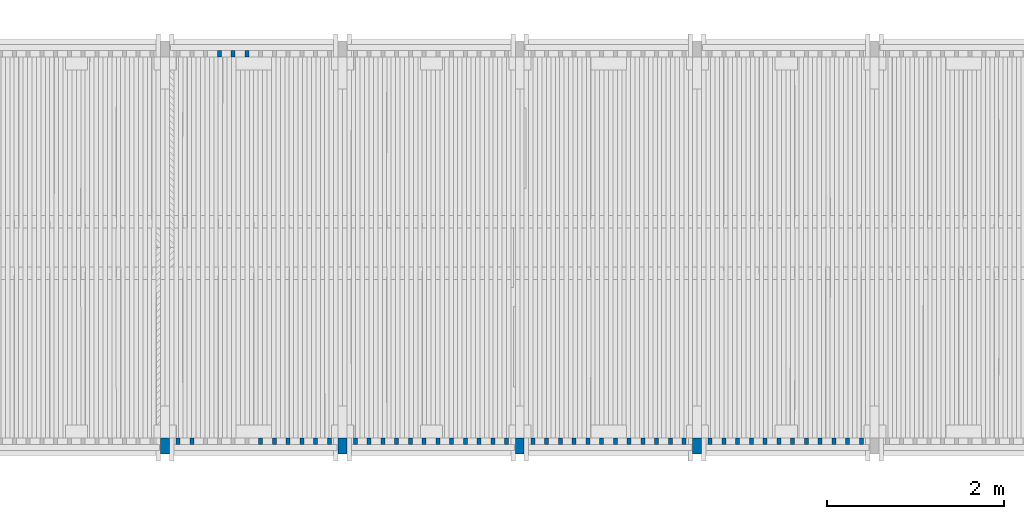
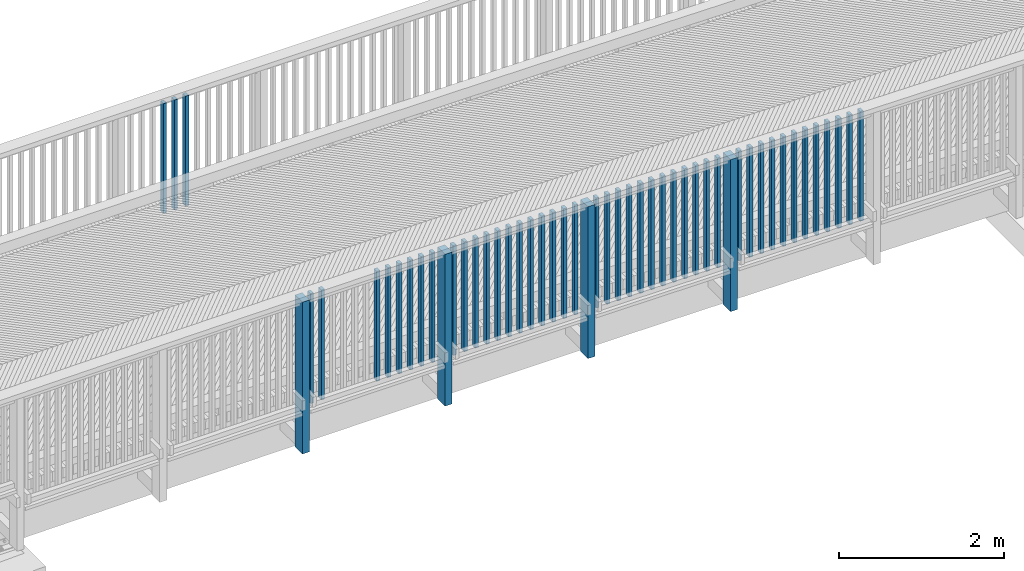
# One storey, part 8 of 52: 51 columns.
"""IFC2X3 building model written with IfcOpenShell, lengths in millimetres."""

from ifc_helpers import new_model, si_unit, frame, origin_with_axes, place, context, subcontext, project, spatial, faceted_brep, material, type_object, element, save


model = new_model("IFC2X3")

# Units and contexts
model_context = context("Model", 3, precision=1e-05, world=origin_with_axes())
body_context = subcontext(model_context, "Body", "Model", "MODEL_VIEW")
ifc_project = project(units=[si_unit("LENGTHUNIT", "METRE", prefix="MILLI"), si_unit("AREAUNIT", "SQUARE_METRE"), si_unit("VOLUMEUNIT", "CUBIC_METRE"), si_unit("MASSUNIT", "GRAM", prefix="KILO"), si_unit("TIMEUNIT", "SECOND"), si_unit("PLANEANGLEUNIT", "RADIAN"), si_unit("SOLIDANGLEUNIT", "STERADIAN"), si_unit("THERMODYNAMICTEMPERATUREUNIT", "DEGREE_CELSIUS"), si_unit("LUMINOUSINTENSITYUNIT", "LUMEN")], contexts=[model_context])

# Site, building, storey
site_placement = place(None, origin_with_axes())
site = spatial("IfcSite", under=ifc_project, at=site_placement, Name="Undefined", CompositionType="ELEMENT")
building_placement = place(site_placement, origin_with_axes())
building = spatial("IfcBuilding", under=site, at=building_placement, Name="Undefined", CompositionType="ELEMENT")
storey_placement = place(building_placement, origin_with_axes())
storey = spatial("IfcBuildingStorey", under=building, at=storey_placement, Name="Undefined", CompositionType="ELEMENT", Elevation=0.0)

# Columns
ifc_material = material(Name="TIMBER/Timber_Undefined")
column_type_1 = type_object("IfcColumnType", Name="180*100", PredefinedType="NOTDEFINED")
for number, where, z_axis, x_axis in (
    (1, (10000.0000678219, 125.01209190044, 2309.97693042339), (0.0, 1.0, 0.0), (0.0, 0.0, 1.0)),
    (2, (8000.00006782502, 125.01209190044, 2313.29124390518), (0.0, 1.0, 0.0), (0.0, 0.0, 1.0)),
    (3, (6000.00006782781, 125.01209190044, 2309.97693031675), (0.0, 1.0, 0.0), (0.0, 0.0, 1.0)),
    (4, (4000.00006783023, 125.01209190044, 2300.03388043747), (0.0, 1.0, 0.0), (0.0, 0.0, 1.0)),
):
    element("IfcColumn", number, at=place(storey_placement, frame(where, z_axis=z_axis, x_axis=x_axis)), inside=storey, type_object=column_type_1, material=ifc_material, Name="KAIDEPYLVÄS", ObjectType="180*100", context=body_context, shape_type="Brep", body=[
        faceted_brep([(0.0, 50.0, -90.0), (0.0, 50.0, 90.0), (2250.0, 50.0, 90.0), (2250.0, 50.0, -90.0), (0.0, -50.0, 90.0), (2250.0, -50.0, 90.0), (0.0, -50.0, -90.0), (2250.0, -50.0, -90.0)], [[[0, 1, 2, 3]], [[1, 4, 5, 2]], [[4, 6, 7, 5]], [[6, 0, 3, 7]], [[5, 7, 3, 2]], [[6, 4, 1, 0]]]),
    ])
column_type_2 = type_object("IfcColumnType", Name="70*45", PredefinedType="NOTDEFINED")
column_1_placement = place(storey_placement, frame((4922.50000075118, 4549.98790809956, 3106.97000000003), z_axis=(0.0, 1.0, 0.0), x_axis=(0.0, 0.0, 1.0)))
element("IfcColumn", 5, at=column_1_placement, inside=storey, type_object=column_type_2, material=ifc_material, Name="BEAM", ObjectType="70*45", context=body_context, shape_type="Brep", body=[
    faceted_brep([(-184.963379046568, 22.5, -35.0), (-184.963379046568, 22.5, 35.0), (1445.03757946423, 22.5, 35.0), (1445.03757946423, 22.5, -35.0), (-185.198872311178, -22.5, 35.0), (1444.80208619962, -22.5, 35.0), (-185.198872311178, -22.5, -35.0), (1444.80208619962, -22.5, -35.0)], [[[0, 1, 2, 3]], [[1, 4, 5, 2]], [[4, 6, 7, 5]], [[6, 0, 3, 7]], [[5, 7, 3, 2]], [[6, 4, 1, 0]]]),
])
column_2_placement = place(storey_placement, frame((4767.50000075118, 4549.98790809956, 3106.97000000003), z_axis=(0.0, 1.0, 0.0), x_axis=(0.0, 0.0, 1.0)))
element("IfcColumn", 6, at=column_2_placement, inside=storey, type_object=column_type_2, material=ifc_material, Name="BEAM", ObjectType="70*45", context=body_context, shape_type="Brep", body=[
    faceted_brep([(-185.774522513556, 22.5, -35.0), (-185.774522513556, 22.5, 35.0), (1444.22643599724, 22.5, 35.0), (1444.22643599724, 22.5, -35.0), (-186.010015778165, -22.5, 35.0), (1443.99094273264, -22.5, 35.0), (-186.010015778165, -22.5, -35.0), (1443.99094273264, -22.5, -35.0)], [[[0, 1, 2, 3]], [[1, 4, 5, 2]], [[4, 6, 7, 5]], [[6, 0, 3, 7]], [[5, 7, 3, 2]], [[6, 4, 1, 0]]]),
])
column_3_placement = place(storey_placement, frame((4612.50000075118, 4549.98790809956, 3106.97000000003), z_axis=(0.0, 1.0, 0.0), x_axis=(0.0, 0.0, 1.0)))
element("IfcColumn", 7, at=column_3_placement, inside=storey, type_object=column_type_2, material=ifc_material, Name="BEAM", ObjectType="70*45", context=body_context, shape_type="Brep", body=[
    faceted_brep([(-186.585665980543, 22.5, -35.0), (-186.585665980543, 22.5, 35.0), (1443.41529253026, 22.5, 35.0), (1443.41529253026, 22.5, -35.0), (-186.821159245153, -22.5, 35.0), (1443.17979926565, -22.5, 35.0), (-186.821159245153, -22.5, -35.0), (1443.17979926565, -22.5, -35.0)], [[[0, 1, 2, 3]], [[1, 4, 5, 2]], [[4, 6, 7, 5]], [[6, 0, 3, 7]], [[5, 7, 3, 2]], [[6, 4, 1, 0]]]),
])
column_4_placement = place(storey_placement, frame((11852.5000007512, 180.01209190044, 3109.68000000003), z_axis=(0.0, -1.0, 0.0), x_axis=(0.0, 0.0, 1.0)))
element("IfcColumn", 8, at=column_4_placement, inside=storey, type_object=column_type_2, material=ifc_material, Name="BEAM", ObjectType="70*45", context=body_context, shape_type="Brep", body=[
    faceted_brep([(-189.019096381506, 22.5, -35.0), (-189.019096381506, 22.5, 35.0), (1440.98186212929, 22.5, 35.0), (1440.98186212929, 22.5, -35.0), (-189.254589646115, -22.5, 35.0), (1440.74636886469, -22.5, 35.0), (-189.254589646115, -22.5, -35.0), (1440.74636886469, -22.5, -35.0)], [[[0, 1, 2, 3]], [[1, 4, 5, 2]], [[4, 6, 7, 5]], [[6, 0, 3, 7]], [[5, 7, 3, 2]], [[6, 4, 1, 0]]]),
])
column_5_placement = place(storey_placement, frame((11697.5000007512, 180.01209190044, 3109.68000000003), z_axis=(0.0, -1.0, 0.0), x_axis=(0.0, 0.0, 1.0)))
element("IfcColumn", 9, at=column_5_placement, inside=storey, type_object=column_type_2, material=ifc_material, Name="BEAM", ObjectType="70*45", context=body_context, shape_type="Brep", body=[
    faceted_brep([(-188.207952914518, 22.5, -35.0), (-188.207952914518, 22.5, 35.0), (1441.79300559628, 22.5, 35.0), (1441.79300559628, 22.5, -35.0), (-188.443446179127, -22.5, 35.0), (1441.55751233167, -22.5, 35.0), (-188.443446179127, -22.5, -35.0), (1441.55751233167, -22.5, -35.0)], [[[0, 1, 2, 3]], [[1, 4, 5, 2]], [[4, 6, 7, 5]], [[6, 0, 3, 7]], [[5, 7, 3, 2]], [[6, 4, 1, 0]]]),
])
column_6_placement = place(storey_placement, frame((11542.5000007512, 180.01209190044, 3109.68000000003), z_axis=(0.0, -1.0, 0.0), x_axis=(0.0, 0.0, 1.0)))
element("IfcColumn", 10, at=column_6_placement, inside=storey, type_object=column_type_2, material=ifc_material, Name="BEAM", ObjectType="70*45", context=body_context, shape_type="Brep", body=[
    faceted_brep([(-187.396809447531, 22.5, -35.0), (-187.396809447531, 22.5, 35.0), (1442.60414906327, 22.5, 35.0), (1442.60414906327, 22.5, -35.0), (-187.63230271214, -22.5, 35.0), (1442.36865579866, -22.5, 35.0), (-187.63230271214, -22.5, -35.0), (1442.36865579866, -22.5, -35.0)], [[[0, 1, 2, 3]], [[1, 4, 5, 2]], [[4, 6, 7, 5]], [[6, 0, 3, 7]], [[5, 7, 3, 2]], [[6, 4, 1, 0]]]),
])
column_7_placement = place(storey_placement, frame((11387.5000007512, 180.01209190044, 3109.68000000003), z_axis=(0.0, -1.0, 0.0), x_axis=(0.0, 0.0, 1.0)))
element("IfcColumn", 11, at=column_7_placement, inside=storey, type_object=column_type_2, material=ifc_material, Name="BEAM", ObjectType="70*45", context=body_context, shape_type="Brep", body=[
    faceted_brep([(-186.585665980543, 22.5, -35.0), (-186.585665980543, 22.5, 35.0), (1443.41529253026, 22.5, 35.0), (1443.41529253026, 22.5, -35.0), (-186.821159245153, -22.5, 35.0), (1443.17979926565, -22.5, 35.0), (-186.821159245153, -22.5, -35.0), (1443.17979926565, -22.5, -35.0)], [[[0, 1, 2, 3]], [[1, 4, 5, 2]], [[4, 6, 7, 5]], [[6, 0, 3, 7]], [[5, 7, 3, 2]], [[6, 4, 1, 0]]]),
])
column_8_placement = place(storey_placement, frame((11232.5000007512, 180.01209190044, 3109.68000000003), z_axis=(0.0, -1.0, 0.0), x_axis=(0.0, 0.0, 1.0)))
element("IfcColumn", 12, at=column_8_placement, inside=storey, type_object=column_type_2, material=ifc_material, Name="BEAM", ObjectType="70*45", context=body_context, shape_type="Brep", body=[
    faceted_brep([(-185.774522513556, 22.5, -35.0), (-185.774522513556, 22.5, 35.0), (1444.22643599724, 22.5, 35.0), (1444.22643599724, 22.5, -35.0), (-186.010015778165, -22.5, 35.0), (1443.99094273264, -22.5, 35.0), (-186.010015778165, -22.5, -35.0), (1443.99094273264, -22.5, -35.0)], [[[0, 1, 2, 3]], [[1, 4, 5, 2]], [[4, 6, 7, 5]], [[6, 0, 3, 7]], [[5, 7, 3, 2]], [[6, 4, 1, 0]]]),
])
column_9_placement = place(storey_placement, frame((11077.5000007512, 180.01209190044, 3109.68000000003), z_axis=(0.0, -1.0, 0.0), x_axis=(0.0, 0.0, 1.0)))
element("IfcColumn", 13, at=column_9_placement, inside=storey, type_object=column_type_2, material=ifc_material, Name="BEAM", ObjectType="70*45", context=body_context, shape_type="Brep", body=[
    faceted_brep([(-184.963379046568, 22.5, -35.0), (-184.963379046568, 22.5, 35.0), (1445.03757946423, 22.5, 35.0), (1445.03757946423, 22.5, -35.0), (-185.198872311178, -22.5, 35.0), (1444.80208619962, -22.5, 35.0), (-185.198872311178, -22.5, -35.0), (1444.80208619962, -22.5, -35.0)], [[[0, 1, 2, 3]], [[1, 4, 5, 2]], [[4, 6, 7, 5]], [[6, 0, 3, 7]], [[5, 7, 3, 2]], [[6, 4, 1, 0]]]),
])
column_10_placement = place(storey_placement, frame((10922.5000007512, 180.01209190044, 3109.68000000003), z_axis=(0.0, -1.0, 0.0), x_axis=(0.0, 0.0, 1.0)))
element("IfcColumn", 14, at=column_10_placement, inside=storey, type_object=column_type_2, material=ifc_material, Name="BEAM", ObjectType="70*45", context=body_context, shape_type="Brep", body=[
    faceted_brep([(-184.152235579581, 22.5, -35.0), (-184.152235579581, 22.5, 35.0), (1445.84872293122, 22.5, 35.0), (1445.84872293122, 22.5, -35.0), (-184.38772884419, -22.5, 35.0), (1445.61322966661, -22.5, 35.0), (-184.38772884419, -22.5, -35.0), (1445.61322966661, -22.5, -35.0)], [[[0, 1, 2, 3]], [[1, 4, 5, 2]], [[4, 6, 7, 5]], [[6, 0, 3, 7]], [[5, 7, 3, 2]], [[6, 4, 1, 0]]]),
])
column_11_placement = place(storey_placement, frame((10767.5000007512, 180.01209190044, 3109.68000000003), z_axis=(0.0, -1.0, 0.0), x_axis=(0.0, 0.0, 1.0)))
element("IfcColumn", 15, at=column_11_placement, inside=storey, type_object=column_type_2, material=ifc_material, Name="BEAM", ObjectType="70*45", context=body_context, shape_type="Brep", body=[
    faceted_brep([(-183.341092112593, 22.5, -35.0), (-183.341092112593, 22.5, 35.0), (1446.65986639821, 22.5, 35.0), (1446.65986639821, 22.5, -35.0), (-183.576585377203, -22.5, 35.0), (1446.4243731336, -22.5, 35.0), (-183.576585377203, -22.5, -35.0), (1446.4243731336, -22.5, -35.0)], [[[0, 1, 2, 3]], [[1, 4, 5, 2]], [[4, 6, 7, 5]], [[6, 0, 3, 7]], [[5, 7, 3, 2]], [[6, 4, 1, 0]]]),
])
column_12_placement = place(storey_placement, frame((10612.5000007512, 180.01209190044, 3109.68000000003), z_axis=(0.0, -1.0, 0.0), x_axis=(0.0, 0.0, 1.0)))
element("IfcColumn", 16, at=column_12_placement, inside=storey, type_object=column_type_2, material=ifc_material, Name="BEAM", ObjectType="70*45", context=body_context, shape_type="Brep", body=[
    faceted_brep([(-182.529948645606, 22.5, -35.0), (-182.529948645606, 22.5, 35.0), (1447.47100986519, 22.5, 35.0), (1447.47100986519, 22.5, -35.0), (-182.765441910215, -22.5, 35.0), (1447.23551660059, -22.5, 35.0), (-182.765441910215, -22.5, -35.0), (1447.23551660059, -22.5, -35.0)], [[[0, 1, 2, 3]], [[1, 4, 5, 2]], [[4, 6, 7, 5]], [[6, 0, 3, 7]], [[5, 7, 3, 2]], [[6, 4, 1, 0]]]),
])
column_13_placement = place(storey_placement, frame((10457.5000007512, 180.01209190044, 3109.68000000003), z_axis=(0.0, -1.0, 0.0), x_axis=(0.0, 0.0, 1.0)))
element("IfcColumn", 17, at=column_13_placement, inside=storey, type_object=column_type_2, material=ifc_material, Name="BEAM", ObjectType="70*45", context=body_context, shape_type="Brep", body=[
    faceted_brep([(-181.718805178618, 22.5, -35.0), (-181.718805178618, 22.5, 35.0), (1448.28215333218, 22.5, 35.0), (1448.28215333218, 22.5, -35.0), (-181.954298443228, -22.5, 35.0), (1448.04666006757, -22.5, 35.0), (-181.954298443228, -22.5, -35.0), (1448.04666006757, -22.5, -35.0)], [[[0, 1, 2, 3]], [[1, 4, 5, 2]], [[4, 6, 7, 5]], [[6, 0, 3, 7]], [[5, 7, 3, 2]], [[6, 4, 1, 0]]]),
])
column_14_placement = place(storey_placement, frame((10302.5000007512, 180.01209190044, 3109.68000000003), z_axis=(0.0, -1.0, 0.0), x_axis=(0.0, 0.0, 1.0)))
element("IfcColumn", 18, at=column_14_placement, inside=storey, type_object=column_type_2, material=ifc_material, Name="BEAM", ObjectType="70*45", context=body_context, shape_type="Brep", body=[
    faceted_brep([(-180.907661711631, 22.5, -35.0), (-180.907661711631, 22.5, 35.0), (1449.09329679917, 22.5, 35.0), (1449.09329679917, 22.5, -35.0), (-181.14315497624, -22.5, 35.0), (1448.85780353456, -22.5, 35.0), (-181.14315497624, -22.5, -35.0), (1448.85780353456, -22.5, -35.0)], [[[0, 1, 2, 3]], [[1, 4, 5, 2]], [[4, 6, 7, 5]], [[6, 0, 3, 7]], [[5, 7, 3, 2]], [[6, 4, 1, 0]]]),
])
column_15_placement = place(storey_placement, frame((10147.5000007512, 180.01209190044, 3109.68000000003), z_axis=(0.0, -1.0, 0.0), x_axis=(0.0, 0.0, 1.0)))
element("IfcColumn", 19, at=column_15_placement, inside=storey, type_object=column_type_2, material=ifc_material, Name="BEAM", ObjectType="70*45", context=body_context, shape_type="Brep", body=[
    faceted_brep([(-180.096518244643, 22.5, -35.0), (-180.096518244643, 22.5, 35.0), (1449.90444026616, 22.5, 35.0), (1449.90444026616, 22.5, -35.0), (-180.332011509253, -22.5, 35.0), (1449.66894700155, -22.5, 35.0), (-180.332011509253, -22.5, -35.0), (1449.66894700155, -22.5, -35.0)], [[[0, 1, 2, 3]], [[1, 4, 5, 2]], [[4, 6, 7, 5]], [[6, 0, 3, 7]], [[5, 7, 3, 2]], [[6, 4, 1, 0]]]),
])
column_16_placement = place(storey_placement, frame((9852.50000075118, 180.01209190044, 3109.68000000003), z_axis=(0.0, -1.0, 0.0), x_axis=(0.0, 0.0, 1.0)))
element("IfcColumn", 20, at=column_16_placement, inside=storey, type_object=column_type_2, material=ifc_material, Name="BEAM", ObjectType="70*45", context=body_context, shape_type="Brep", body=[
    faceted_brep([(-179.493851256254, 22.5, -35.0), (-179.493851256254, 22.5, 35.0), (1450.50625524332, 22.5, 35.0), (1450.50625524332, 22.5, -35.0), (-179.572348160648, -22.5, 35.0), (1450.42775833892, -22.5, 35.0), (-179.572348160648, -22.5, -35.0), (1450.42775833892, -22.5, -35.0)], [[[0, 1, 2, 3]], [[1, 4, 5, 2]], [[4, 6, 7, 5]], [[6, 0, 3, 7]], [[5, 7, 3, 2]], [[6, 4, 1, 0]]]),
])
column_17_placement = place(storey_placement, frame((9697.50000075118, 180.01209190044, 3109.68000000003), z_axis=(0.0, -1.0, 0.0), x_axis=(0.0, 0.0, 1.0)))
element("IfcColumn", 21, at=column_17_placement, inside=storey, type_object=column_type_2, material=ifc_material, Name="BEAM", ObjectType="70*45", context=body_context, shape_type="Brep", body=[
    faceted_brep([(-179.223473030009, 22.5, -35.0), (-179.223473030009, 22.5, 35.0), (1450.77663346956, 22.5, 35.0), (1450.77663346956, 22.5, -35.0), (-179.301969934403, -22.5, 35.0), (1450.69813656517, -22.5, 35.0), (-179.301969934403, -22.5, -35.0), (1450.69813656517, -22.5, -35.0)], [[[0, 1, 2, 3]], [[1, 4, 5, 2]], [[4, 6, 7, 5]], [[6, 0, 3, 7]], [[5, 7, 3, 2]], [[6, 4, 1, 0]]]),
])
column_18_placement = place(storey_placement, frame((9542.50000075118, 180.01209190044, 3109.68000000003), z_axis=(0.0, -1.0, 0.0), x_axis=(0.0, 0.0, 1.0)))
element("IfcColumn", 22, at=column_18_placement, inside=storey, type_object=column_type_2, material=ifc_material, Name="BEAM", ObjectType="70*45", context=body_context, shape_type="Brep", body=[
    faceted_brep([(-178.953094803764, 22.5, -35.0), (-178.953094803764, 22.5, 35.0), (1451.04701169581, 22.5, 35.0), (1451.04701169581, 22.5, -35.0), (-179.031591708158, -22.5, 35.0), (1450.96851479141, -22.5, 35.0), (-179.031591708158, -22.5, -35.0), (1450.96851479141, -22.5, -35.0)], [[[0, 1, 2, 3]], [[1, 4, 5, 2]], [[4, 6, 7, 5]], [[6, 0, 3, 7]], [[5, 7, 3, 2]], [[6, 4, 1, 0]]]),
])
column_19_placement = place(storey_placement, frame((9387.50000075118, 180.01209190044, 3109.68000000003), z_axis=(0.0, -1.0, 0.0), x_axis=(0.0, 0.0, 1.0)))
element("IfcColumn", 23, at=column_19_placement, inside=storey, type_object=column_type_2, material=ifc_material, Name="BEAM", ObjectType="70*45", context=body_context, shape_type="Brep", body=[
    faceted_brep([(-178.682716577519, 22.5, -35.0), (-178.682716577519, 22.5, 35.0), (1451.31738992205, 22.5, 35.0), (1451.31738992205, 22.5, -35.0), (-178.761213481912, -22.5, 35.0), (1451.23889301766, -22.5, 35.0), (-178.761213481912, -22.5, -35.0), (1451.23889301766, -22.5, -35.0)], [[[0, 1, 2, 3]], [[1, 4, 5, 2]], [[4, 6, 7, 5]], [[6, 0, 3, 7]], [[5, 7, 3, 2]], [[6, 4, 1, 0]]]),
])
column_20_placement = place(storey_placement, frame((9232.50000075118, 180.01209190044, 3109.68000000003), z_axis=(0.0, -1.0, 0.0), x_axis=(0.0, 0.0, 1.0)))
element("IfcColumn", 24, at=column_20_placement, inside=storey, type_object=column_type_2, material=ifc_material, Name="BEAM", ObjectType="70*45", context=body_context, shape_type="Brep", body=[
    faceted_brep([(-178.412338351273, 22.5, -35.0), (-178.412338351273, 22.5, 35.0), (1451.5877681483, 22.5, 35.0), (1451.5877681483, 22.5, -35.0), (-178.490835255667, -22.5, 35.0), (1451.5092712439, -22.5, 35.0), (-178.490835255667, -22.5, -35.0), (1451.5092712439, -22.5, -35.0)], [[[0, 1, 2, 3]], [[1, 4, 5, 2]], [[4, 6, 7, 5]], [[6, 0, 3, 7]], [[5, 7, 3, 2]], [[6, 4, 1, 0]]]),
])
column_21_placement = place(storey_placement, frame((9077.50000075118, 180.01209190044, 3109.68000000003), z_axis=(0.0, -1.0, 0.0), x_axis=(0.0, 0.0, 1.0)))
element("IfcColumn", 25, at=column_21_placement, inside=storey, type_object=column_type_2, material=ifc_material, Name="BEAM", ObjectType="70*45", context=body_context, shape_type="Brep", body=[
    faceted_brep([(-178.141960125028, 22.5, -35.0), (-178.141960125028, 22.5, 35.0), (1451.85814637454, 22.5, 35.0), (1451.85814637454, 22.5, -35.0), (-178.220457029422, -22.5, 35.0), (1451.77964947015, -22.5, 35.0), (-178.220457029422, -22.5, -35.0), (1451.77964947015, -22.5, -35.0)], [[[0, 1, 2, 3]], [[1, 4, 5, 2]], [[4, 6, 7, 5]], [[6, 0, 3, 7]], [[5, 7, 3, 2]], [[6, 4, 1, 0]]]),
])
column_22_placement = place(storey_placement, frame((8922.50000075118, 180.01209190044, 3109.68000000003), z_axis=(0.0, -1.0, 0.0), x_axis=(0.0, 0.0, 1.0)))
element("IfcColumn", 26, at=column_22_placement, inside=storey, type_object=column_type_2, material=ifc_material, Name="BEAM", ObjectType="70*45", context=body_context, shape_type="Brep", body=[
    faceted_brep([(-177.871581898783, 22.5, -35.0), (-177.871581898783, 22.5, 35.0), (1452.12852460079, 22.5, 35.0), (1452.12852460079, 22.5, -35.0), (-177.950078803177, -22.5, 35.0), (1452.05002769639, -22.5, 35.0), (-177.950078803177, -22.5, -35.0), (1452.05002769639, -22.5, -35.0)], [[[0, 1, 2, 3]], [[1, 4, 5, 2]], [[4, 6, 7, 5]], [[6, 0, 3, 7]], [[5, 7, 3, 2]], [[6, 4, 1, 0]]]),
])
column_23_placement = place(storey_placement, frame((8767.50000075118, 180.01209190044, 3109.68000000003), z_axis=(0.0, -1.0, 0.0), x_axis=(0.0, 0.0, 1.0)))
element("IfcColumn", 27, at=column_23_placement, inside=storey, type_object=column_type_2, material=ifc_material, Name="BEAM", ObjectType="70*45", context=body_context, shape_type="Brep", body=[
    faceted_brep([(-177.601203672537, 22.5, -35.0), (-177.601203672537, 22.5, 35.0), (1452.39890282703, 22.5, 35.0), (1452.39890282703, 22.5, -35.0), (-177.679700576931, -22.5, 35.0), (1452.32040592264, -22.5, 35.0), (-177.679700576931, -22.5, -35.0), (1452.32040592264, -22.5, -35.0)], [[[0, 1, 2, 3]], [[1, 4, 5, 2]], [[4, 6, 7, 5]], [[6, 0, 3, 7]], [[5, 7, 3, 2]], [[6, 4, 1, 0]]]),
])
column_24_placement = place(storey_placement, frame((8612.50000075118, 180.01209190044, 3109.68000000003), z_axis=(0.0, -1.0, 0.0), x_axis=(0.0, 0.0, 1.0)))
element("IfcColumn", 28, at=column_24_placement, inside=storey, type_object=column_type_2, material=ifc_material, Name="BEAM", ObjectType="70*45", context=body_context, shape_type="Brep", body=[
    faceted_brep([(-177.330825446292, 22.5, -35.0), (-177.330825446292, 22.5, 35.0), (1452.66928105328, 22.5, 35.0), (1452.66928105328, 22.5, -35.0), (-177.409322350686, -22.5, 35.0), (1452.59078414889, -22.5, 35.0), (-177.409322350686, -22.5, -35.0), (1452.59078414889, -22.5, -35.0)], [[[0, 1, 2, 3]], [[1, 4, 5, 2]], [[4, 6, 7, 5]], [[6, 0, 3, 7]], [[5, 7, 3, 2]], [[6, 4, 1, 0]]]),
])
column_25_placement = place(storey_placement, frame((8457.50000075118, 180.01209190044, 3109.68000000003), z_axis=(0.0, -1.0, 0.0), x_axis=(0.0, 0.0, 1.0)))
element("IfcColumn", 29, at=column_25_placement, inside=storey, type_object=column_type_2, material=ifc_material, Name="BEAM", ObjectType="70*45", context=body_context, shape_type="Brep", body=[
    faceted_brep([(-177.060447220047, 22.5, -35.0), (-177.060447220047, 22.5, 35.0), (1452.93965927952, 22.5, 35.0), (1452.93965927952, 22.5, -35.0), (-177.138944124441, -22.5, 35.0), (1452.86116237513, -22.5, 35.0), (-177.138944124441, -22.5, -35.0), (1452.86116237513, -22.5, -35.0)], [[[0, 1, 2, 3]], [[1, 4, 5, 2]], [[4, 6, 7, 5]], [[6, 0, 3, 7]], [[5, 7, 3, 2]], [[6, 4, 1, 0]]]),
])
column_26_placement = place(storey_placement, frame((8302.50000075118, 180.01209190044, 3109.68000000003), z_axis=(0.0, -1.0, 0.0), x_axis=(0.0, 0.0, 1.0)))
element("IfcColumn", 30, at=column_26_placement, inside=storey, type_object=column_type_2, material=ifc_material, Name="BEAM", ObjectType="70*45", context=body_context, shape_type="Brep", body=[
    faceted_brep([(-176.790068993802, 22.5, -35.0), (-176.790068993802, 22.5, 35.0), (1453.21003750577, 22.5, 35.0), (1453.21003750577, 22.5, -35.0), (-176.868565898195, -22.5, 35.0), (1453.13154060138, -22.5, 35.0), (-176.868565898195, -22.5, -35.0), (1453.13154060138, -22.5, -35.0)], [[[0, 1, 2, 3]], [[1, 4, 5, 2]], [[4, 6, 7, 5]], [[6, 0, 3, 7]], [[5, 7, 3, 2]], [[6, 4, 1, 0]]]),
])
column_27_placement = place(storey_placement, frame((8147.50000075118, 180.01209190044, 3109.68000000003), z_axis=(0.0, -1.0, 0.0), x_axis=(0.0, 0.0, 1.0)))
element("IfcColumn", 31, at=column_27_placement, inside=storey, type_object=column_type_2, material=ifc_material, Name="BEAM", ObjectType="70*45", context=body_context, shape_type="Brep", body=[
    faceted_brep([(-176.519690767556, 22.5, -35.0), (-176.519690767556, 22.5, 35.0), (1453.48041573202, 22.5, 35.0), (1453.48041573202, 22.5, -35.0), (-176.59818767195, -22.5, 35.0), (1453.40191882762, -22.5, 35.0), (-176.59818767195, -22.5, -35.0), (1453.40191882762, -22.5, -35.0)], [[[0, 1, 2, 3]], [[1, 4, 5, 2]], [[4, 6, 7, 5]], [[6, 0, 3, 7]], [[5, 7, 3, 2]], [[6, 4, 1, 0]]]),
])
column_28_placement = place(storey_placement, frame((7852.50000075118, 180.01209190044, 3109.68000000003), z_axis=(0.0, -1.0, 0.0), x_axis=(0.0, 0.0, 1.0)))
element("IfcColumn", 32, at=column_28_placement, inside=storey, type_object=column_type_2, material=ifc_material, Name="BEAM", ObjectType="70*45", context=body_context, shape_type="Brep", body=[
    faceted_brep([(-176.598187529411, 22.5, -35.0), (-176.598187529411, 22.5, 35.0), (1453.40191897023, 22.5, 35.0), (1453.40191897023, 22.5, -35.0), (-176.519690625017, -22.5, 35.0), (1453.48041587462, -22.5, 35.0), (-176.519690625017, -22.5, -35.0), (1453.48041587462, -22.5, -35.0)], [[[0, 1, 2, 3]], [[1, 4, 5, 2]], [[4, 6, 7, 5]], [[6, 0, 3, 7]], [[5, 7, 3, 2]], [[6, 4, 1, 0]]]),
])
column_29_placement = place(storey_placement, frame((7697.50000075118, 180.01209190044, 3109.68000000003), z_axis=(0.0, -1.0, 0.0), x_axis=(0.0, 0.0, 1.0)))
element("IfcColumn", 33, at=column_29_placement, inside=storey, type_object=column_type_2, material=ifc_material, Name="BEAM", ObjectType="70*45", context=body_context, shape_type="Brep", body=[
    faceted_brep([(-176.868565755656, 22.5, -35.0), (-176.868565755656, 22.5, 35.0), (1453.13154074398, 22.5, 35.0), (1453.13154074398, 22.5, -35.0), (-176.790068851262, -22.5, 35.0), (1453.21003764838, -22.5, 35.0), (-176.790068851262, -22.5, -35.0), (1453.21003764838, -22.5, -35.0)], [[[0, 1, 2, 3]], [[1, 4, 5, 2]], [[4, 6, 7, 5]], [[6, 0, 3, 7]], [[5, 7, 3, 2]], [[6, 4, 1, 0]]]),
])
column_30_placement = place(storey_placement, frame((7542.50000075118, 180.01209190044, 3109.68000000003), z_axis=(0.0, -1.0, 0.0), x_axis=(0.0, 0.0, 1.0)))
element("IfcColumn", 34, at=column_30_placement, inside=storey, type_object=column_type_2, material=ifc_material, Name="BEAM", ObjectType="70*45", context=body_context, shape_type="Brep", body=[
    faceted_brep([(-177.138943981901, 22.5, -35.0), (-177.138943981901, 22.5, 35.0), (1452.86116251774, 22.5, 35.0), (1452.86116251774, 22.5, -35.0), (-177.060447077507, -22.5, 35.0), (1452.93965942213, -22.5, 35.0), (-177.060447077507, -22.5, -35.0), (1452.93965942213, -22.5, -35.0)], [[[0, 1, 2, 3]], [[1, 4, 5, 2]], [[4, 6, 7, 5]], [[6, 0, 3, 7]], [[5, 7, 3, 2]], [[6, 4, 1, 0]]]),
])
column_31_placement = place(storey_placement, frame((7387.50000075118, 180.01209190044, 3109.68000000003), z_axis=(0.0, -1.0, 0.0), x_axis=(0.0, 0.0, 1.0)))
element("IfcColumn", 35, at=column_31_placement, inside=storey, type_object=column_type_2, material=ifc_material, Name="BEAM", ObjectType="70*45", context=body_context, shape_type="Brep", body=[
    faceted_brep([(-177.409322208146, 22.5, -35.0), (-177.409322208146, 22.5, 35.0), (1452.59078429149, 22.5, 35.0), (1452.59078429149, 22.5, -35.0), (-177.330825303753, -22.5, 35.0), (1452.66928119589, -22.5, 35.0), (-177.330825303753, -22.5, -35.0), (1452.66928119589, -22.5, -35.0)], [[[0, 1, 2, 3]], [[1, 4, 5, 2]], [[4, 6, 7, 5]], [[6, 0, 3, 7]], [[5, 7, 3, 2]], [[6, 4, 1, 0]]]),
])
column_32_placement = place(storey_placement, frame((7232.50000075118, 180.01209190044, 3109.68000000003), z_axis=(0.0, -1.0, 0.0), x_axis=(0.0, 0.0, 1.0)))
element("IfcColumn", 36, at=column_32_placement, inside=storey, type_object=column_type_2, material=ifc_material, Name="BEAM", ObjectType="70*45", context=body_context, shape_type="Brep", body=[
    faceted_brep([(-177.679700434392, 22.5, -35.0), (-177.679700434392, 22.5, 35.0), (1452.32040606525, 22.5, 35.0), (1452.32040606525, 22.5, -35.0), (-177.601203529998, -22.5, 35.0), (1452.39890296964, -22.5, 35.0), (-177.601203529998, -22.5, -35.0), (1452.39890296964, -22.5, -35.0)], [[[0, 1, 2, 3]], [[1, 4, 5, 2]], [[4, 6, 7, 5]], [[6, 0, 3, 7]], [[5, 7, 3, 2]], [[6, 4, 1, 0]]]),
])
column_33_placement = place(storey_placement, frame((7077.50000075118, 180.01209190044, 3109.68000000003), z_axis=(0.0, -1.0, 0.0), x_axis=(0.0, 0.0, 1.0)))
element("IfcColumn", 37, at=column_33_placement, inside=storey, type_object=column_type_2, material=ifc_material, Name="BEAM", ObjectType="70*45", context=body_context, shape_type="Brep", body=[
    faceted_brep([(-177.950078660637, 22.5, -35.0), (-177.950078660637, 22.5, 35.0), (1452.050027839, 22.5, 35.0), (1452.050027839, 22.5, -35.0), (-177.871581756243, -22.5, 35.0), (1452.12852474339, -22.5, 35.0), (-177.871581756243, -22.5, -35.0), (1452.12852474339, -22.5, -35.0)], [[[0, 1, 2, 3]], [[1, 4, 5, 2]], [[4, 6, 7, 5]], [[6, 0, 3, 7]], [[5, 7, 3, 2]], [[6, 4, 1, 0]]]),
])
column_34_placement = place(storey_placement, frame((6922.50000075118, 180.01209190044, 3109.68000000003), z_axis=(0.0, -1.0, 0.0), x_axis=(0.0, 0.0, 1.0)))
element("IfcColumn", 38, at=column_34_placement, inside=storey, type_object=column_type_2, material=ifc_material, Name="BEAM", ObjectType="70*45", context=body_context, shape_type="Brep", body=[
    faceted_brep([(-178.220456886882, 22.5, -35.0), (-178.220456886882, 22.5, 35.0), (1451.77964961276, 22.5, 35.0), (1451.77964961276, 22.5, -35.0), (-178.141959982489, -22.5, 35.0), (1451.85814651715, -22.5, 35.0), (-178.141959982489, -22.5, -35.0), (1451.85814651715, -22.5, -35.0)], [[[0, 1, 2, 3]], [[1, 4, 5, 2]], [[4, 6, 7, 5]], [[6, 0, 3, 7]], [[5, 7, 3, 2]], [[6, 4, 1, 0]]]),
])
column_35_placement = place(storey_placement, frame((6767.50000075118, 180.01209190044, 3109.68000000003), z_axis=(0.0, -1.0, 0.0), x_axis=(0.0, 0.0, 1.0)))
element("IfcColumn", 39, at=column_35_placement, inside=storey, type_object=column_type_2, material=ifc_material, Name="BEAM", ObjectType="70*45", context=body_context, shape_type="Brep", body=[
    faceted_brep([(-178.490835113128, 22.5, -35.0), (-178.490835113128, 22.5, 35.0), (1451.50927138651, 22.5, 35.0), (1451.50927138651, 22.5, -35.0), (-178.412338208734, -22.5, 35.0), (1451.5877682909, -22.5, 35.0), (-178.412338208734, -22.5, -35.0), (1451.5877682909, -22.5, -35.0)], [[[0, 1, 2, 3]], [[1, 4, 5, 2]], [[4, 6, 7, 5]], [[6, 0, 3, 7]], [[5, 7, 3, 2]], [[6, 4, 1, 0]]]),
])
column_36_placement = place(storey_placement, frame((6612.50000075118, 180.01209190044, 3109.68000000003), z_axis=(0.0, -1.0, 0.0), x_axis=(0.0, 0.0, 1.0)))
element("IfcColumn", 40, at=column_36_placement, inside=storey, type_object=column_type_2, material=ifc_material, Name="BEAM", ObjectType="70*45", context=body_context, shape_type="Brep", body=[
    faceted_brep([(-178.761213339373, 22.5, -35.0), (-178.761213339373, 22.5, 35.0), (1451.23889316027, 22.5, 35.0), (1451.23889316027, 22.5, -35.0), (-178.682716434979, -22.5, 35.0), (1451.31739006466, -22.5, 35.0), (-178.682716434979, -22.5, -35.0), (1451.31739006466, -22.5, -35.0)], [[[0, 1, 2, 3]], [[1, 4, 5, 2]], [[4, 6, 7, 5]], [[6, 0, 3, 7]], [[5, 7, 3, 2]], [[6, 4, 1, 0]]]),
])
column_37_placement = place(storey_placement, frame((6457.50000075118, 180.01209190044, 3109.68000000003), z_axis=(0.0, -1.0, 0.0), x_axis=(0.0, 0.0, 1.0)))
element("IfcColumn", 41, at=column_37_placement, inside=storey, type_object=column_type_2, material=ifc_material, Name="BEAM", ObjectType="70*45", context=body_context, shape_type="Brep", body=[
    faceted_brep([(-179.031591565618, 22.5, -35.0), (-179.031591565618, 22.5, 35.0), (1450.96851493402, 22.5, 35.0), (1450.96851493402, 22.5, -35.0), (-178.953094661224, -22.5, 35.0), (1451.04701183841, -22.5, 35.0), (-178.953094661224, -22.5, -35.0), (1451.04701183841, -22.5, -35.0)], [[[0, 1, 2, 3]], [[1, 4, 5, 2]], [[4, 6, 7, 5]], [[6, 0, 3, 7]], [[5, 7, 3, 2]], [[6, 4, 1, 0]]]),
])
column_38_placement = place(storey_placement, frame((6302.50000075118, 180.01209190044, 3109.68000000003), z_axis=(0.0, -1.0, 0.0), x_axis=(0.0, 0.0, 1.0)))
element("IfcColumn", 42, at=column_38_placement, inside=storey, type_object=column_type_2, material=ifc_material, Name="BEAM", ObjectType="70*45", context=body_context, shape_type="Brep", body=[
    faceted_brep([(-179.301969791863, 22.5, -35.0), (-179.301969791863, 22.5, 35.0), (1450.69813670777, 22.5, 35.0), (1450.69813670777, 22.5, -35.0), (-179.22347288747, -22.5, 35.0), (1450.77663361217, -22.5, 35.0), (-179.22347288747, -22.5, -35.0), (1450.77663361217, -22.5, -35.0)], [[[0, 1, 2, 3]], [[1, 4, 5, 2]], [[4, 6, 7, 5]], [[6, 0, 3, 7]], [[5, 7, 3, 2]], [[6, 4, 1, 0]]]),
])
column_39_placement = place(storey_placement, frame((6147.50000075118, 180.01209190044, 3109.68000000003), z_axis=(0.0, -1.0, 0.0), x_axis=(0.0, 0.0, 1.0)))
element("IfcColumn", 43, at=column_39_placement, inside=storey, type_object=column_type_2, material=ifc_material, Name="BEAM", ObjectType="70*45", context=body_context, shape_type="Brep", body=[
    faceted_brep([(-179.572348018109, 22.5, -35.0), (-179.572348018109, 22.5, 35.0), (1450.42775848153, 22.5, 35.0), (1450.42775848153, 22.5, -35.0), (-179.493851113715, -22.5, 35.0), (1450.50625538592, -22.5, 35.0), (-179.493851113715, -22.5, -35.0), (1450.50625538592, -22.5, -35.0)], [[[0, 1, 2, 3]], [[1, 4, 5, 2]], [[4, 6, 7, 5]], [[6, 0, 3, 7]], [[5, 7, 3, 2]], [[6, 4, 1, 0]]]),
])
column_40_placement = place(storey_placement, frame((5852.50000075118, 180.01209190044, 3106.97000000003), z_axis=(0.0, -1.0, 0.0), x_axis=(0.0, 0.0, 1.0)))
element("IfcColumn", 44, at=column_40_placement, inside=storey, type_object=column_type_2, material=ifc_material, Name="BEAM", ObjectType="70*45", context=body_context, shape_type="Brep", body=[
    faceted_brep([(-180.332009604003, 22.5, -35.0), (-180.332009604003, 22.5, 35.0), (1449.66894890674, 22.5, 35.0), (1449.66894890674, 22.5, -35.0), (-180.096516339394, -22.5, 35.0), (1449.90444217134, -22.5, 35.0), (-180.096516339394, -22.5, -35.0), (1449.90444217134, -22.5, -35.0)], [[[0, 1, 2, 3]], [[1, 4, 5, 2]], [[4, 6, 7, 5]], [[6, 0, 3, 7]], [[5, 7, 3, 2]], [[6, 4, 1, 0]]]),
])
column_41_placement = place(storey_placement, frame((5697.50000075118, 180.01209190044, 3106.97000000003), z_axis=(0.0, -1.0, 0.0), x_axis=(0.0, 0.0, 1.0)))
element("IfcColumn", 45, at=column_41_placement, inside=storey, type_object=column_type_2, material=ifc_material, Name="BEAM", ObjectType="70*45", context=body_context, shape_type="Brep", body=[
    faceted_brep([(-181.143153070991, 22.5, -35.0), (-181.143153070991, 22.5, 35.0), (1448.85780543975, 22.5, 35.0), (1448.85780543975, 22.5, -35.0), (-180.907659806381, -22.5, 35.0), (1449.09329870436, -22.5, 35.0), (-180.907659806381, -22.5, -35.0), (1449.09329870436, -22.5, -35.0)], [[[0, 1, 2, 3]], [[1, 4, 5, 2]], [[4, 6, 7, 5]], [[6, 0, 3, 7]], [[5, 7, 3, 2]], [[6, 4, 1, 0]]]),
])
column_42_placement = place(storey_placement, frame((5542.50000075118, 180.01209190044, 3106.97000000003), z_axis=(0.0, -1.0, 0.0), x_axis=(0.0, 0.0, 1.0)))
element("IfcColumn", 46, at=column_42_placement, inside=storey, type_object=column_type_2, material=ifc_material, Name="BEAM", ObjectType="70*45", context=body_context, shape_type="Brep", body=[
    faceted_brep([(-181.954296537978, 22.5, -35.0), (-181.954296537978, 22.5, 35.0), (1448.04666197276, 22.5, 35.0), (1448.04666197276, 22.5, -35.0), (-181.718803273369, -22.5, 35.0), (1448.28215523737, -22.5, 35.0), (-181.718803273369, -22.5, -35.0), (1448.28215523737, -22.5, -35.0)], [[[0, 1, 2, 3]], [[1, 4, 5, 2]], [[4, 6, 7, 5]], [[6, 0, 3, 7]], [[5, 7, 3, 2]], [[6, 4, 1, 0]]]),
])
column_43_placement = place(storey_placement, frame((5387.50000075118, 180.01209190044, 3106.97000000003), z_axis=(0.0, -1.0, 0.0), x_axis=(0.0, 0.0, 1.0)))
element("IfcColumn", 47, at=column_43_placement, inside=storey, type_object=column_type_2, material=ifc_material, Name="BEAM", ObjectType="70*45", context=body_context, shape_type="Brep", body=[
    faceted_brep([(-182.765440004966, 22.5, -35.0), (-182.765440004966, 22.5, 35.0), (1447.23551850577, 22.5, 35.0), (1447.23551850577, 22.5, -35.0), (-182.529946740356, -22.5, 35.0), (1447.47101177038, -22.5, 35.0), (-182.529946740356, -22.5, -35.0), (1447.47101177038, -22.5, -35.0)], [[[0, 1, 2, 3]], [[1, 4, 5, 2]], [[4, 6, 7, 5]], [[6, 0, 3, 7]], [[5, 7, 3, 2]], [[6, 4, 1, 0]]]),
])
column_44_placement = place(storey_placement, frame((5232.50000075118, 180.01209190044, 3106.97000000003), z_axis=(0.0, -1.0, 0.0), x_axis=(0.0, 0.0, 1.0)))
element("IfcColumn", 48, at=column_44_placement, inside=storey, type_object=column_type_2, material=ifc_material, Name="BEAM", ObjectType="70*45", context=body_context, shape_type="Brep", body=[
    faceted_brep([(-183.576583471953, 22.5, -35.0), (-183.576583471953, 22.5, 35.0), (1446.42437503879, 22.5, 35.0), (1446.42437503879, 22.5, -35.0), (-183.341090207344, -22.5, 35.0), (1446.65986830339, -22.5, 35.0), (-183.341090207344, -22.5, -35.0), (1446.65986830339, -22.5, -35.0)], [[[0, 1, 2, 3]], [[1, 4, 5, 2]], [[4, 6, 7, 5]], [[6, 0, 3, 7]], [[5, 7, 3, 2]], [[6, 4, 1, 0]]]),
])
column_45_placement = place(storey_placement, frame((5077.50000075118, 180.01209190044, 3106.97000000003), z_axis=(0.0, -1.0, 0.0), x_axis=(0.0, 0.0, 1.0)))
element("IfcColumn", 49, at=column_45_placement, inside=storey, type_object=column_type_2, material=ifc_material, Name="BEAM", ObjectType="70*45", context=body_context, shape_type="Brep", body=[
    faceted_brep([(-184.38772693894, 22.5, -35.0), (-184.38772693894, 22.5, 35.0), (1445.6132315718, 22.5, 35.0), (1445.6132315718, 22.5, -35.0), (-184.152233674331, -22.5, 35.0), (1445.84872483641, -22.5, 35.0), (-184.152233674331, -22.5, -35.0), (1445.84872483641, -22.5, -35.0)], [[[0, 1, 2, 3]], [[1, 4, 5, 2]], [[4, 6, 7, 5]], [[6, 0, 3, 7]], [[5, 7, 3, 2]], [[6, 4, 1, 0]]]),
])
column_46_placement = place(storey_placement, frame((4302.50000075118, 180.01209190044, 3106.97000000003), z_axis=(0.0, -1.0, 0.0), x_axis=(0.0, 0.0, 1.0)))
element("IfcColumn", 50, at=column_46_placement, inside=storey, type_object=column_type_2, material=ifc_material, Name="BEAM", ObjectType="70*45", context=body_context, shape_type="Brep", body=[
    faceted_brep([(-188.443444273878, 22.5, -35.0), (-188.443444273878, 22.5, 35.0), (1441.55751423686, 22.5, 35.0), (1441.55751423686, 22.5, -35.0), (-188.207951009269, -22.5, 35.0), (1441.79300750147, -22.5, 35.0), (-188.207951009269, -22.5, -35.0), (1441.79300750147, -22.5, -35.0)], [[[0, 1, 2, 3]], [[1, 4, 5, 2]], [[4, 6, 7, 5]], [[6, 0, 3, 7]], [[5, 7, 3, 2]], [[6, 4, 1, 0]]]),
])
column_47_placement = place(storey_placement, frame((4147.50000075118, 180.01209190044, 3106.97000000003), z_axis=(0.0, -1.0, 0.0), x_axis=(0.0, 0.0, 1.0)))
element("IfcColumn", 51, at=column_47_placement, inside=storey, type_object=column_type_2, material=ifc_material, Name="BEAM", ObjectType="70*45", context=body_context, shape_type="Brep", body=[
    faceted_brep([(-189.254587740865, 22.5, -35.0), (-189.254587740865, 22.5, 35.0), (1440.74637076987, 22.5, 35.0), (1440.74637076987, 22.5, -35.0), (-189.019094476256, -22.5, 35.0), (1440.98186403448, -22.5, 35.0), (-189.019094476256, -22.5, -35.0), (1440.98186403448, -22.5, -35.0)], [[[0, 1, 2, 3]], [[1, 4, 5, 2]], [[4, 6, 7, 5]], [[6, 0, 3, 7]], [[5, 7, 3, 2]], [[6, 4, 1, 0]]]),
])

save(model, "model.ifc")
